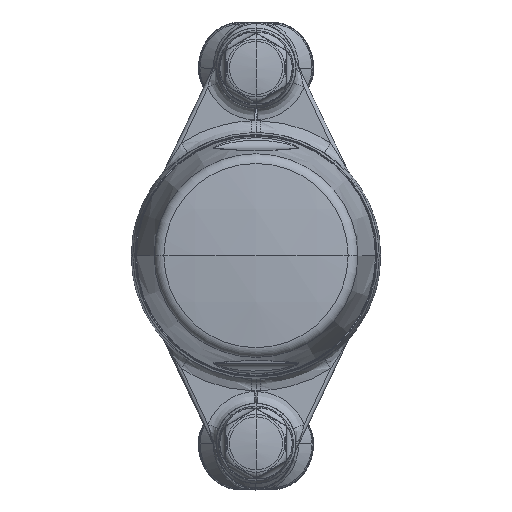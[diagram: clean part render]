
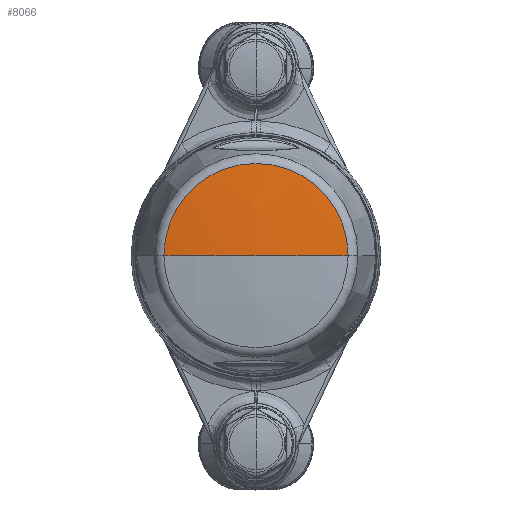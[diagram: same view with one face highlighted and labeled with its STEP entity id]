
A CAD part, top view. The second image highlights one B-rep face of the part: STEP entity #8066.
In plain terms, the highlighted spherical face has radius 200 mm.
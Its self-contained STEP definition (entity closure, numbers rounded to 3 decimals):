
#339 = VERTEX_POINT ( 'NONE', #36576 ) ;
#444 = VERTEX_POINT ( 'NONE', #13336 ) ;
#1600 = ORIENTED_EDGE ( 'NONE', *, *, #32883, .F. ) ;
#2663 = AXIS2_PLACEMENT_3D ( 'NONE', #45748, #28581, #24710 ) ;
#3214 = CARTESIAN_POINT ( 'NONE',  ( 0., 0., -158.249 ) ) ;
#5663 = DIRECTION ( 'NONE',  ( 0., 1., 0. ) ) ;
#7268 = EDGE_CURVE ( 'NONE', #33999, #444, #33542, .T. ) ;
#7857 = CARTESIAN_POINT ( 'NONE',  ( 0., 0., -158.249 ) ) ;
#8066 = ADVANCED_FACE ( 'NONE', ( #49977 ), #29466, .T. ) ;
#12863 = AXIS2_PLACEMENT_3D ( 'NONE', #3214, #20136, #44771 ) ;
#13336 = CARTESIAN_POINT ( 'NONE',  ( 24.283, 0., 40.272 ) ) ;
#14193 = CIRCLE ( 'NONE', #2663, 24.283 ) ;
#15472 = AXIS2_PLACEMENT_3D ( 'NONE', #7857, #45243, #53604 ) ;
#15834 = AXIS2_PLACEMENT_3D ( 'NONE', #40552, #5663, #22568 ) ;
#20136 = DIRECTION ( 'NONE',  ( 0., -1., 0. ) ) ;
#22568 = DIRECTION ( 'NONE',  ( -1., 0., 0. ) ) ;
#23822 = EDGE_CURVE ( 'NONE', #444, #339, #14193, .T. ) ;
#24710 = DIRECTION ( 'NONE',  ( -1., 0., 0. ) ) ;
#28581 = DIRECTION ( 'NONE',  ( 0., 0., 1. ) ) ;
#29466 = SPHERICAL_SURFACE ( 'NONE', #15472, 200. ) ;
#32883 = EDGE_CURVE ( 'NONE', #33999, #339, #42842, .T. ) ;
#33542 = CIRCLE ( 'NONE', #15834, 200. ) ;
#33999 = VERTEX_POINT ( 'NONE', #42821 ) ;
#35501 = ORIENTED_EDGE ( 'NONE', *, *, #7268, .T. ) ;
#36576 = CARTESIAN_POINT ( 'NONE',  ( -24.283, 0., 40.272 ) ) ;
#38357 = EDGE_LOOP ( 'NONE', ( #1600, #35501, #40476 ) ) ;
#40476 = ORIENTED_EDGE ( 'NONE', *, *, #23822, .T. ) ;
#40552 = CARTESIAN_POINT ( 'NONE',  ( 0., 0., -158.249 ) ) ;
#42821 = CARTESIAN_POINT ( 'NONE',  ( 0., 0., 41.751 ) ) ;
#42842 = CIRCLE ( 'NONE', #12863, 200. ) ;
#44771 = DIRECTION ( 'NONE',  ( 1., 0., 0. ) ) ;
#45243 = DIRECTION ( 'NONE',  ( 0., -1., 0. ) ) ;
#45748 = CARTESIAN_POINT ( 'NONE',  ( 0., 0., 40.272 ) ) ;
#49977 = FACE_OUTER_BOUND ( 'NONE', #38357, .T. ) ;
#53604 = DIRECTION ( 'NONE',  ( 1., 0., 0. ) ) ;
